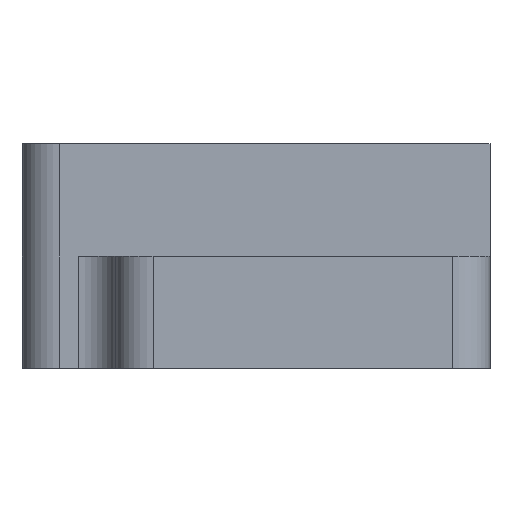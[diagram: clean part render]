
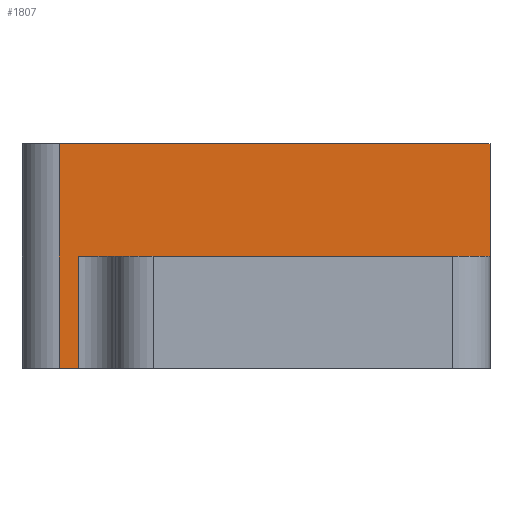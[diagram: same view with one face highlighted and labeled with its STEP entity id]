
A CAD part, front view. The second image highlights one B-rep face of the part: STEP entity #1807.
In plain terms, the highlighted planar face has unit normal (0, -1, 0).
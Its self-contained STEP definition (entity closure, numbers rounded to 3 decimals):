
#126 = EDGE_CURVE ( 'NONE', #4012, #7265, #2950, .T. ) ;
#268 = CARTESIAN_POINT ( 'NONE',  ( -10., -9., 6. ) ) ;
#322 = CARTESIAN_POINT ( 'NONE',  ( -13., -9., 0. ) ) ;
#506 = CARTESIAN_POINT ( 'NONE',  ( -12., -9., 0. ) ) ;
#684 = VECTOR ( 'NONE', #4532, 1000. ) ;
#712 = EDGE_CURVE ( 'NONE', #2820, #2447, #6009, .T. ) ;
#791 = VECTOR ( 'NONE', #1967, 1000. ) ;
#807 = FACE_OUTER_BOUND ( 'NONE', #6404, .T. ) ;
#922 = CARTESIAN_POINT ( 'NONE',  ( -12., -9., 0. ) ) ;
#1133 = EDGE_CURVE ( 'NONE', #6524, #1497, #3709, .T. ) ;
#1261 = DIRECTION ( 'NONE',  ( 0., 0., -1. ) ) ;
#1408 = CARTESIAN_POINT ( 'NONE',  ( -15., -9., 12. ) ) ;
#1497 = VERTEX_POINT ( 'NONE', #3768 ) ;
#1617 = LINE ( 'NONE', #4458, #684 ) ;
#1807 = ADVANCED_FACE ( 'NONE', ( #807 ), #4741, .T. ) ;
#1931 = DIRECTION ( 'NONE',  ( 0., -1., 0. ) ) ;
#1946 = ORIENTED_EDGE ( 'NONE', *, *, #712, .T. ) ;
#1967 = DIRECTION ( 'NONE',  ( 0., 0., 1. ) ) ;
#2235 = CARTESIAN_POINT ( 'NONE',  ( -12., -9., 6. ) ) ;
#2283 = CARTESIAN_POINT ( 'NONE',  ( -13., -9., 12. ) ) ;
#2447 = VERTEX_POINT ( 'NONE', #2235 ) ;
#2775 = ORIENTED_EDGE ( 'NONE', *, *, #126, .T. ) ;
#2797 = ORIENTED_EDGE ( 'NONE', *, *, #4604, .F. ) ;
#2820 = VERTEX_POINT ( 'NONE', #506 ) ;
#2950 = LINE ( 'NONE', #4782, #5740 ) ;
#3008 = CARTESIAN_POINT ( 'NONE',  ( 10., -9., 6. ) ) ;
#3041 = ORIENTED_EDGE ( 'NONE', *, *, #7120, .T. ) ;
#3610 = DIRECTION ( 'NONE',  ( 1., 0., 0. ) ) ;
#3636 = DIRECTION ( 'NONE',  ( -1., 0., 0. ) ) ;
#3709 = LINE ( 'NONE', #5964, #5761 ) ;
#3758 = AXIS2_PLACEMENT_3D ( 'NONE', #5861, #1931, #1261 ) ;
#3768 = CARTESIAN_POINT ( 'NONE',  ( 10., -9., 12. ) ) ;
#3822 = DIRECTION ( 'NONE',  ( 0., 0., 1. ) ) ;
#4012 = VERTEX_POINT ( 'NONE', #2283 ) ;
#4275 = ORIENTED_EDGE ( 'NONE', *, *, #1133, .T. ) ;
#4458 = CARTESIAN_POINT ( 'NONE',  ( -15., -9., 0. ) ) ;
#4532 = DIRECTION ( 'NONE',  ( 1., 0., 0. ) ) ;
#4604 = EDGE_CURVE ( 'NONE', #4012, #1497, #5299, .T. ) ;
#4741 = PLANE ( 'NONE',  #3758 ) ;
#4782 = CARTESIAN_POINT ( 'NONE',  ( -13., -9., 0. ) ) ;
#5238 = DIRECTION ( 'NONE',  ( 0., 0., -1. ) ) ;
#5299 = LINE ( 'NONE', #1408, #5408 ) ;
#5408 = VECTOR ( 'NONE', #3610, 1000. ) ;
#5740 = VECTOR ( 'NONE', #5238, 1000. ) ;
#5761 = VECTOR ( 'NONE', #3822, 1000. ) ;
#5861 = CARTESIAN_POINT ( 'NONE',  ( -15., -9., 0. ) ) ;
#5964 = CARTESIAN_POINT ( 'NONE',  ( 10., -9., 0. ) ) ;
#6009 = LINE ( 'NONE', #922, #791 ) ;
#6404 = EDGE_LOOP ( 'NONE', ( #2797, #2775, #3041, #1946, #6739, #4275 ) ) ;
#6524 = VERTEX_POINT ( 'NONE', #3008 ) ;
#6739 = ORIENTED_EDGE ( 'NONE', *, *, #6963, .F. ) ;
#6963 = EDGE_CURVE ( 'NONE', #6524, #2447, #7105, .T. ) ;
#7105 = LINE ( 'NONE', #268, #7249 ) ;
#7120 = EDGE_CURVE ( 'NONE', #7265, #2820, #1617, .T. ) ;
#7249 = VECTOR ( 'NONE', #3636, 1000. ) ;
#7265 = VERTEX_POINT ( 'NONE', #322 ) ;
